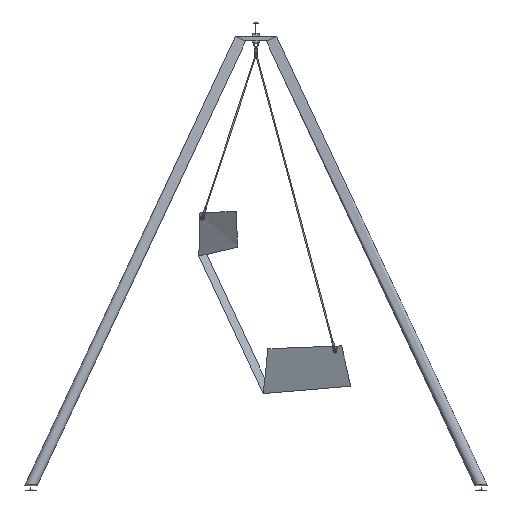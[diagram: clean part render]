
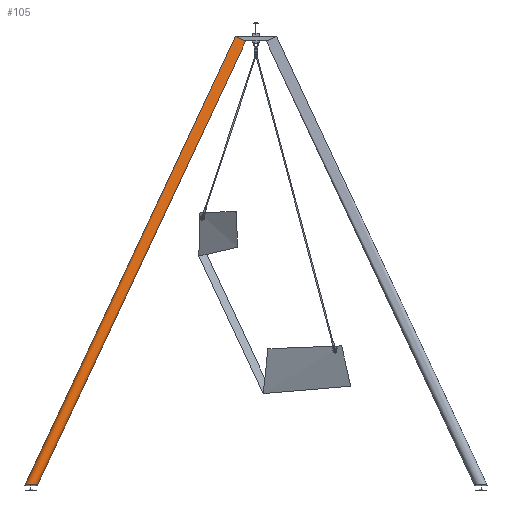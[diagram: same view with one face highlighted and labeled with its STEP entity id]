
A CAD part, left-side view. The second image highlights one B-rep face of the part: STEP entity #105.
In plain terms, the highlighted cylindrical face has radius 24.15 mm (diameter 48.3 mm), a partial arc.
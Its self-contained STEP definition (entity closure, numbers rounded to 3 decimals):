
#105=ADVANCED_FACE('',(#515),#5377,.T.);
#515=FACE_OUTER_BOUND('',#925,.T.);
#925=EDGE_LOOP('',(#1343,#1344,#1345,#1346));
#1343=ORIENTED_EDGE('',*,*,#2972,.F.);
#1344=ORIENTED_EDGE('',*,*,#2967,.T.);
#1345=ORIENTED_EDGE('',*,*,#2975,.F.);
#1346=ORIENTED_EDGE('',*,*,#2974,.F.);
#2967=EDGE_CURVE('',#4633,#4631,#4087,.T.);
#2972=EDGE_CURVE('',#4633,#4635,#3799,.T.);
#2974=EDGE_CURVE('',#4635,#4636,#4092,.T.);
#2975=EDGE_CURVE('',#4636,#4631,#4093,.T.);
#3799=B_SPLINE_CURVE_WITH_KNOTS('',3,(#6357,#6358,#6359,#6360,#6361,#6362,
#6363,#6364,#6365,#6366,#6367,#6368,#6369,#6370,#6371,#6372,#6373,#6374,
#6375),.UNSPECIFIED.,.F.,.F.,(4,2,2,2,3,2,2,2,4),(0.,10.086,20.147,
30.103,40.05,50.064,60.085,70.205,
80.352),.UNSPECIFIED.);
#4087=(
BOUNDED_CURVE()
B_SPLINE_CURVE(3,(#6328,#6329,#6330,#6331),.UNSPECIFIED.,.F.,.F.)
B_SPLINE_CURVE_WITH_KNOTS((4,4),(31.234,2124.77),
 .UNSPECIFIED.)
CURVE()
GEOMETRIC_REPRESENTATION_ITEM()
RATIONAL_B_SPLINE_CURVE((1.,1.,1.,1.))
REPRESENTATION_ITEM('')
);
#4092=(
BOUNDED_CURVE()
B_SPLINE_CURVE(3,(#6395,#6396,#6397,#6398),.UNSPECIFIED.,.F.,.F.)
B_SPLINE_CURVE_WITH_KNOTS((4,4),(8.766,2124.77),
 .UNSPECIFIED.)
CURVE()
GEOMETRIC_REPRESENTATION_ITEM()
RATIONAL_B_SPLINE_CURVE((1.,1.,1.,1.))
REPRESENTATION_ITEM('')
);
#4093=(
BOUNDED_CURVE()
B_SPLINE_CURVE(2,(#6399,#6400,#6401,#6402,#6403),.UNSPECIFIED.,.F.,.F.)
B_SPLINE_CURVE_WITH_KNOTS((3,2,3),(75.869,113.804,151.739),
 .UNSPECIFIED.)
CURVE()
GEOMETRIC_REPRESENTATION_ITEM()
RATIONAL_B_SPLINE_CURVE((1.,0.707,1.,0.707,1.))
REPRESENTATION_ITEM('')
);
#4631=VERTEX_POINT('',#6320);
#4633=VERTEX_POINT('',#6322);
#4635=VERTEX_POINT('',#6324);
#4636=VERTEX_POINT('',#6325);
#5377=CYLINDRICAL_SURFACE('',#5613,24.15);
#5613=AXIS2_PLACEMENT_3D('',#6204,#5906,$);
#5906=DIRECTION('',(0.11,-0.422,0.9));
#6204=CARTESIAN_POINT('',(-584.873,513.856,957.859));
#6320=CARTESIAN_POINT('',(-467.509,43.404,1903.452));
#6322=CARTESIAN_POINT('',(-698.787,927.394,19.848));
#6324=CARTESIAN_POINT('',(-701.269,980.606,20.152));
#6325=CARTESIAN_POINT('',(-467.509,87.129,1923.972));
#6328=CARTESIAN_POINT('',(-698.787,927.394,19.848));
#6329=CARTESIAN_POINT('',(-621.694,632.731,647.716));
#6330=CARTESIAN_POINT('',(-544.602,338.068,1275.584));
#6331=CARTESIAN_POINT('',(-467.509,43.404,1903.452));
#6357=CARTESIAN_POINT('',(-698.787,927.394,19.848));
#6358=CARTESIAN_POINT('',(-702.114,927.202,20.256));
#6359=CARTESIAN_POINT('',(-705.417,927.785,20.662));
#6360=CARTESIAN_POINT('',(-711.559,930.362,21.416));
#6361=CARTESIAN_POINT('',(-714.298,932.309,21.752));
#6362=CARTESIAN_POINT('',(-718.842,937.131,22.31));
#6363=CARTESIAN_POINT('',(-720.618,939.955,22.528));
#6364=CARTESIAN_POINT('',(-723.107,946.064,22.834));
#6365=CARTESIAN_POINT('',(-723.812,949.326,22.92));
#6366=CARTESIAN_POINT('',(-723.965,952.621,22.939));
#6367=CARTESIAN_POINT('',(-724.12,955.938,22.958));
#6368=CARTESIAN_POINT('',(-723.716,959.275,22.909));
#6369=CARTESIAN_POINT('',(-721.801,965.635,22.673));
#6370=CARTESIAN_POINT('',(-720.295,968.639,22.489));
#6371=CARTESIAN_POINT('',(-716.239,973.933,21.991));
#6372=CARTESIAN_POINT('',(-713.706,976.178,21.679));
#6373=CARTESIAN_POINT('',(-707.853,979.444,20.961));
#6374=CARTESIAN_POINT('',(-704.617,980.413,20.563));
#6375=CARTESIAN_POINT('',(-701.269,980.606,20.152));
#6395=CARTESIAN_POINT('',(-701.269,980.606,20.152));
#6396=CARTESIAN_POINT('',(-623.349,682.78,654.759));
#6397=CARTESIAN_POINT('',(-545.429,384.954,1289.365));
#6398=CARTESIAN_POINT('',(-467.509,87.129,1923.972));
#6399=CARTESIAN_POINT('',(-467.509,87.129,1923.972));
#6400=CARTESIAN_POINT('',(-491.511,85.995,1926.387));
#6401=CARTESIAN_POINT('',(-491.511,64.133,1916.127));
#6402=CARTESIAN_POINT('',(-491.511,42.271,1905.867));
#6403=CARTESIAN_POINT('',(-467.509,43.404,1903.452));
